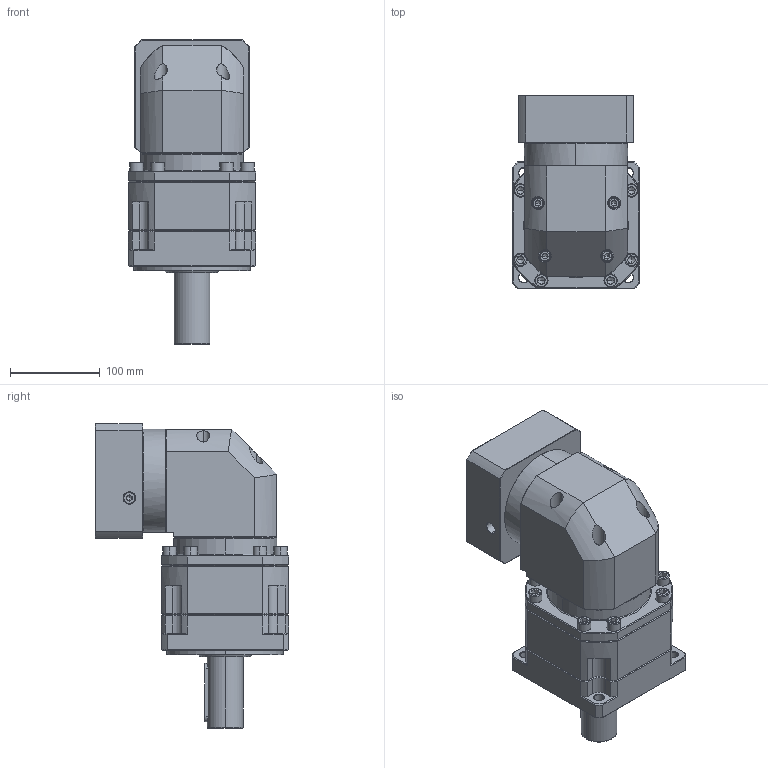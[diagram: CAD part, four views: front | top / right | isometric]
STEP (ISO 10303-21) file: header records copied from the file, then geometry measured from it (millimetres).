
FILE_DESCRIPTION (( 'STEP AP214' ), '1' );
FILE_NAME ('ZBR142A-D40-L2-P2-28-110-145-M8.step', '2023-09-02T08:10:04', ( '' ), ( '' ), 'SwSTEP 2.0', 'SolidWorks 2016', '' );
FILE_SCHEMA (( 'AUTOMOTIVE_DESIGN' ));
Length unit declared in the file: millimetre
Products named in the file (1): ZBR142A-D40-L2-P2-28-110-145-M8
Bounding box: 142 x 215.9 x 340.2 mm (x, y, z)
Volume: 4581766.8 mm3; surface area: 331590.3 mm2
Topology: 6 solids, 6 shells, 2591 faces, 6735 edges, 4267 vertices
Faces by surface type: plane 1233, cylinder 502, bspline 411, cone 399, torus 46
Entity records: 137047 total; most frequent: CARTESIAN_POINT 48574, ORIENTED_EDGE 13362, DIRECTION 10922, EDGE_CURVE 6681, VECTOR 4278, LINE 4278, VERTEX_POINT 4267, AXIS2_PLACEMENT_3D 3322
